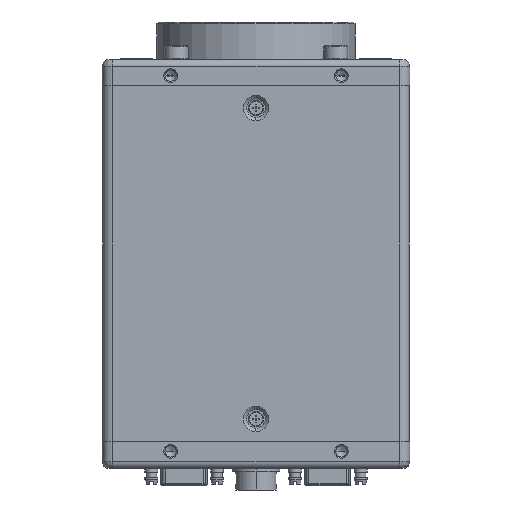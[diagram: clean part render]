
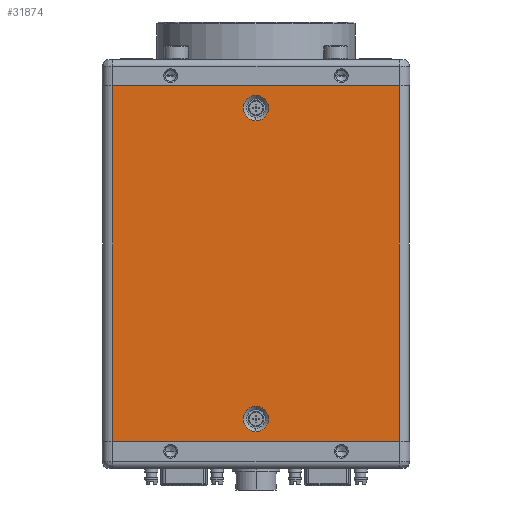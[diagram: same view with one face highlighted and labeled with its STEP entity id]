
A CAD part, front view. The second image highlights one B-rep face of the part: STEP entity #31874.
In plain terms, the highlighted planar face has unit normal (0, -1, 0).
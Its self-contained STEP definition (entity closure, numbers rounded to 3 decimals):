
#1253=DIRECTION('',(0.,0.,1.));
#1254=VECTOR('',#1253,104.);
#1255=CARTESIAN_POINT('',(42.,-44.8,8.));
#1256=LINE('',#1255,#1254);
#1257=DIRECTION('',(-1.,0.,0.));
#1258=VECTOR('',#1257,84.);
#1259=CARTESIAN_POINT('',(42.,-44.8,8.));
#1260=LINE('',#1259,#1258);
#1261=DIRECTION('',(1.,0.,0.));
#1262=VECTOR('',#1261,84.);
#1263=CARTESIAN_POINT('',(-42.,-44.8,112.));
#1264=LINE('',#1263,#1262);
#1265=CARTESIAN_POINT('',(0.,-44.8,105.5));
#1266=DIRECTION('',(0.,-1.,0.));
#1267=DIRECTION('',(0.,0.,-1.));
#1268=AXIS2_PLACEMENT_3D('',#1265,#1266,#1267);
#1270=CARTESIAN_POINT('',(0.,-44.8,105.5));
#1271=DIRECTION('',(0.,-1.,0.));
#1272=DIRECTION('',(0.,0.,1.));
#1273=AXIS2_PLACEMENT_3D('',#1270,#1271,#1272);
#1275=CARTESIAN_POINT('',(0.,-44.8,14.5));
#1276=DIRECTION('',(0.,-1.,0.));
#1277=DIRECTION('',(0.,0.,-1.));
#1278=AXIS2_PLACEMENT_3D('',#1275,#1276,#1277);
#1280=CARTESIAN_POINT('',(0.,-44.8,14.5));
#1281=DIRECTION('',(0.,-1.,0.));
#1282=DIRECTION('',(0.,0.,1.));
#1283=AXIS2_PLACEMENT_3D('',#1280,#1281,#1282);
#1285=DIRECTION('',(0.,0.,-1.));
#1286=VECTOR('',#1285,104.);
#1287=CARTESIAN_POINT('',(-42.,-44.8,112.));
#1288=LINE('',#1287,#1286);
#28958=CARTESIAN_POINT('',(-42.,-44.8,112.));
#28959=VERTEX_POINT('',#28958);
#28960=CARTESIAN_POINT('',(42.,-44.8,112.));
#28961=VERTEX_POINT('',#28960);
#28998=CARTESIAN_POINT('',(-42.,-44.8,8.));
#28999=VERTEX_POINT('',#28998);
#29000=CARTESIAN_POINT('',(42.,-44.8,8.));
#29001=VERTEX_POINT('',#29000);
#29022=CARTESIAN_POINT('',(0.,-44.8,101.8));
#29023=CARTESIAN_POINT('',(0.,-44.8,109.2));
#29024=VERTEX_POINT('',#29022);
#29025=VERTEX_POINT('',#29023);
#29026=CARTESIAN_POINT('',(0.,-44.8,10.8));
#29027=CARTESIAN_POINT('',(0.,-44.8,18.2));
#29028=VERTEX_POINT('',#29026);
#29029=VERTEX_POINT('',#29027);
#31849=CARTESIAN_POINT('',(0.,-44.8,60.));
#31850=DIRECTION('',(0.,1.,0.));
#31851=DIRECTION('',(-1.,0.,0.));
#31852=AXIS2_PLACEMENT_3D('',#31849,#31850,#31851);
#31853=PLANE('',#31852);
#31854=ORIENTED_EDGE('',*,*,#31835,.F.);
#31855=ORIENTED_EDGE('',*,*,#31722,.T.);
#31857=ORIENTED_EDGE('',*,*,#31856,.F.);
#31859=ORIENTED_EDGE('',*,*,#31858,.T.);
#31860=EDGE_LOOP('',(#31854,#31855,#31857,#31859));
#31861=FACE_OUTER_BOUND('',#31860,.F.);
#31863=ORIENTED_EDGE('',*,*,#31862,.T.);
#31865=ORIENTED_EDGE('',*,*,#31864,.T.);
#31866=EDGE_LOOP('',(#31863,#31865));
#31867=FACE_BOUND('',#31866,.F.);
#31869=ORIENTED_EDGE('',*,*,#31868,.T.);
#31871=ORIENTED_EDGE('',*,*,#31870,.T.);
#31872=EDGE_LOOP('',(#31869,#31871));
#31873=FACE_BOUND('',#31872,.F.);
#1269=CIRCLE('',#1268,3.7);
#1274=CIRCLE('',#1273,3.7);
#1279=CIRCLE('',#1278,3.7);
#1284=CIRCLE('',#1283,3.7);
#31722=EDGE_CURVE('',#29001,#28999,#1260,.T.);
#31835=EDGE_CURVE('',#29001,#28961,#1256,.T.);
#31856=EDGE_CURVE('',#28959,#28999,#1288,.T.);
#31858=EDGE_CURVE('',#28959,#28961,#1264,.T.);
#31862=EDGE_CURVE('',#29024,#29025,#1269,.T.);
#31864=EDGE_CURVE('',#29025,#29024,#1274,.T.);
#31868=EDGE_CURVE('',#29028,#29029,#1279,.T.);
#31870=EDGE_CURVE('',#29029,#29028,#1284,.T.);
#31874=ADVANCED_FACE('',(#31861,#31867,#31873),#31853,.F.);
